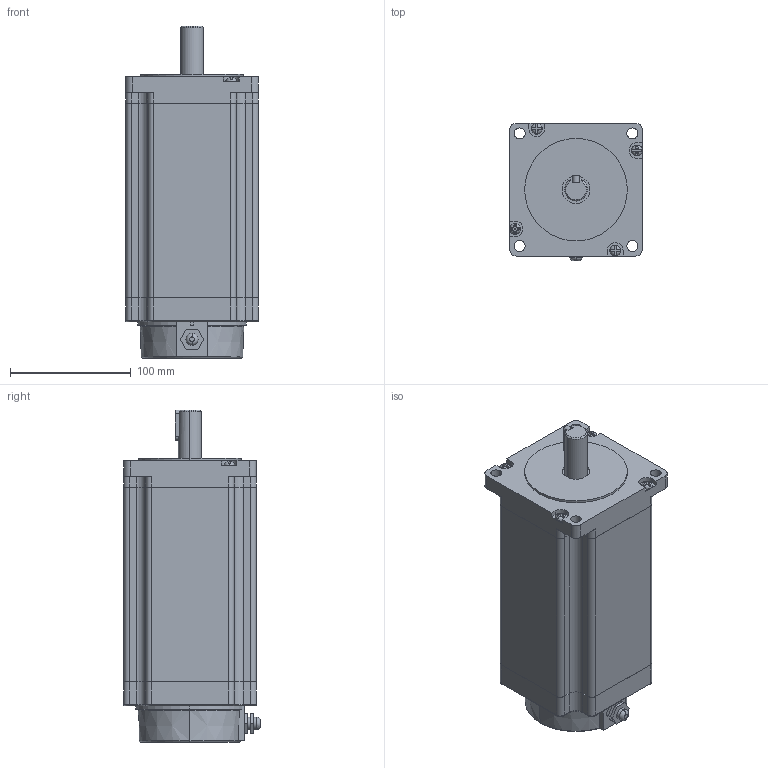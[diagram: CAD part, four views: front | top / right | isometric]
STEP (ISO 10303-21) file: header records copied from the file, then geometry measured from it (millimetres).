
FILE_DESCRIPTION (( 'STEP AP214' ), '1' );
FILE_NAME ('LS110C20-R6J50.STEP', '2021-09-07T02:43:39', ( '' ), ( '' ), 'SwSTEP 2.0', 'SolidWorks 2021', '' );
FILE_SCHEMA (( 'AUTOMOTIVE_DESIGN' ));
Length unit declared in the file: millimetre
Products named in the file (1): LS110C20-R6J50
Bounding box: 110 x 113.47 x 275 mm (x, y, z)
Volume: 2393508.6 mm3; surface area: 121805 mm2
Topology: 2 solids, 2 shells, 2897 faces, 8356 edges, 5560 vertices
Faces by surface type: plane 2770, cylinder 95, torus 27, cone 5
Entity records: 123842 total; most frequent: CARTESIAN_POINT 17191, ORIENTED_EDGE 16712, DIRECTION 14397, EDGE_CURVE 8356, VECTOR 8033, LINE 8033, VERTEX_POINT 5560, AXIS2_PLACEMENT_3D 3182
